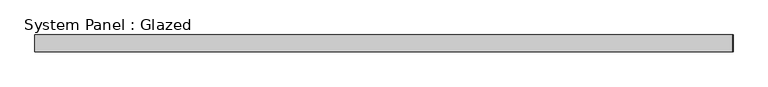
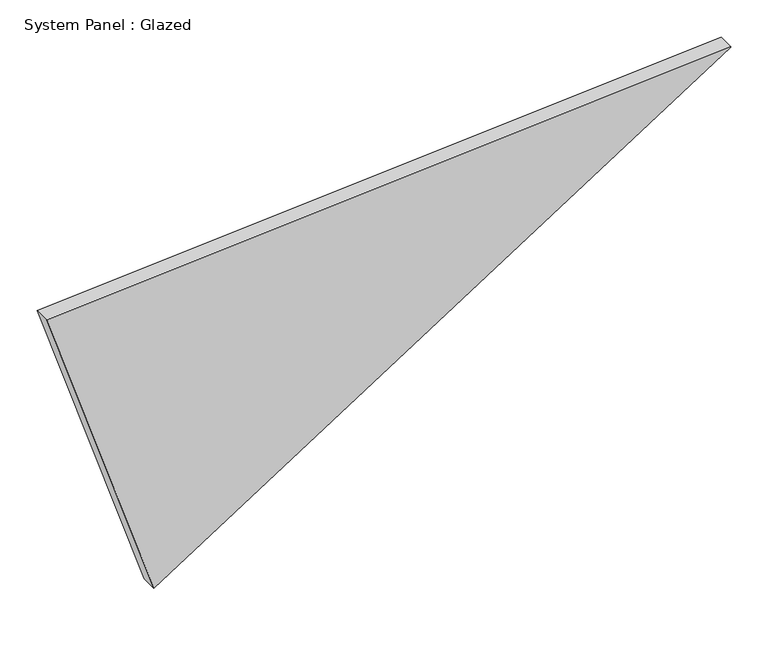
"""IFC4 building model written with IfcOpenShell, lengths in millimetres: plate geometry, System Panel : Glazed."""

from ifc_helpers import new_model, si_unit, frame, origin, place, context, project, spatial, polyline, outline, extrude, source, transform, mapped, element, save


def system_panel_glazed_1ae12ef8(model_context):
    return source(origin(), model_context, "Body", "SweptSolid", [
        extrude(outline(polyline([(499.0470004, -530.9360488), (0.0, -364.6754571), (574.9347928, 530.9360488), (576.1275748, 530.5386661), (499.0470004, -530.9360488)])), frame((0.0, -44.45, 0.0), z_axis=(0.0, 1.0, 0.0), x_axis=(0.0, 0.0, 1.0)), (0.0, 0.0, 1.0), 25.4),
    ])


if __name__ == "__main__":
    model = new_model("IFC4")
    model_context = context("Model", 3, world=origin())
    ifc_project = project(units=[si_unit("LENGTHUNIT", "METRE", prefix="MILLI")], contexts=[model_context])
    site = spatial("IfcSite", under=ifc_project)
    building = spatial("IfcBuilding", under=site)
    placement = place(None, origin())
    system_panel_glazed_shape = system_panel_glazed_1ae12ef8(model_context)
    element("IfcPlate", 1, ObjectType="System Panel : Glazed", at=placement, inside=building, context=model_context, shape_type="MappedRepresentation", body=[
        mapped(system_panel_glazed_shape, transform((0.0, 0.0, 0.0), x_axis=(1.0, 0.0, 0.0), y_axis=(0.0, 1.0, 0.0), z_axis=(0.0, 0.0, 1.0))),
    ])
    save(model, "model.ifc")
